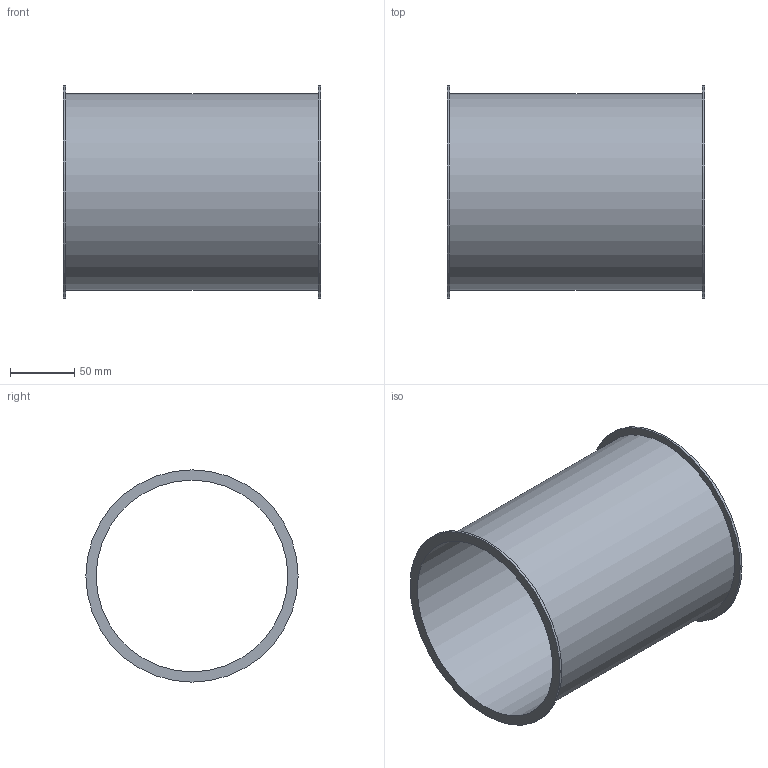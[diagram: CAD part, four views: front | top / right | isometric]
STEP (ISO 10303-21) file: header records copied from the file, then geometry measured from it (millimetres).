
FILE_DESCRIPTION((''),'2;1');
FILE_NAME('U:\Wolfgang\Marcel-3D\fertig\Kapitel 1\1521004.stp','2010-05-31T11:07:45',('TK2'),(''),'Autodesk Inventor 2010','Autodesk Inventor 2010','');
FILE_SCHEMA(('AUTOMOTIVE_DESIGN { 1 0 10303 214 1 1 1 1 }'));
Length unit declared in the file: millimetre
Products named in the file (1): 1521004
Bounding box: 200 x 165 x 165 mm (x, y, z)
Volume: 201740.5 mm3; surface area: 203788.8 mm2
Topology: 1 solids, 1 shells, 8 faces, 12 edges, 8 vertices
Faces by surface type: cylinder 4, plane 4
Full cylindrical faces by diameter (mm): 149 x1, 153 x1, 165 x2
Entity records: 194 total; most frequent: DIRECTION 34, CARTESIAN_POINT 25, AXIS2_PLACEMENT_3D 17, ORIENTED_EDGE 16, EDGE_LOOP 16, VERTEX_POINT 8, CIRCLE 8, EDGE_CURVE 8
